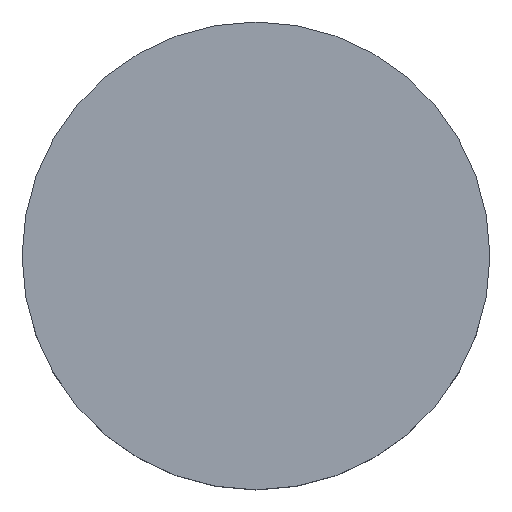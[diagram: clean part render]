
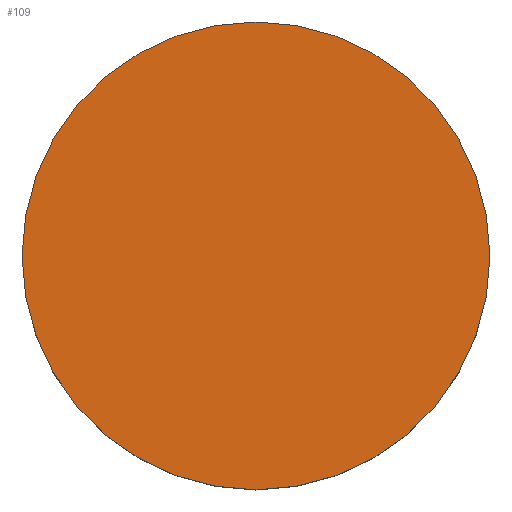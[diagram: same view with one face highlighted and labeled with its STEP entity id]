
A CAD part, top view. The second image highlights one B-rep face of the part: STEP entity #109.
In plain terms, the highlighted planar face has unit normal (0, 0, 1).
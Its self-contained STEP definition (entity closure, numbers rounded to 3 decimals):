
#24 = VERTEX_POINT('',#25);
#25 = CARTESIAN_POINT('',(9.,0.,4.));
#32 = CYLINDRICAL_SURFACE('',#33,9.);
#33 = AXIS2_PLACEMENT_3D('',#34,#35,#36);
#34 = CARTESIAN_POINT('',(0.,0.,0.));
#35 = DIRECTION('',(-0.,-0.,-1.));
#36 = DIRECTION('',(1.,0.,0.));
#51 = EDGE_CURVE('',#24,#24,#52,.T.);
#52 = SURFACE_CURVE('',#53,(#58,#65),.PCURVE_S1.);
#53 = CIRCLE('',#54,9.);
#54 = AXIS2_PLACEMENT_3D('',#55,#56,#57);
#55 = CARTESIAN_POINT('',(0.,0.,4.));
#56 = DIRECTION('',(0.,0.,1.));
#57 = DIRECTION('',(1.,0.,0.));
#58 = PCURVE('',#32,#59);
#59 = DEFINITIONAL_REPRESENTATION('',(#60),#64);
#60 = LINE('',#61,#62);
#61 = CARTESIAN_POINT('',(-0.,-4.));
#62 = VECTOR('',#63,1.);
#63 = DIRECTION('',(-1.,0.));
#64 = ( GEOMETRIC_REPRESENTATION_CONTEXT(2) 
PARAMETRIC_REPRESENTATION_CONTEXT() REPRESENTATION_CONTEXT('2D SPACE',''
  ) );
#65 = PCURVE('',#66,#71);
#66 = PLANE('',#67);
#67 = AXIS2_PLACEMENT_3D('',#68,#69,#70);
#68 = CARTESIAN_POINT('',(0.,0.,4.));
#69 = DIRECTION('',(0.,0.,1.));
#70 = DIRECTION('',(1.,0.,-0.));
#71 = DEFINITIONAL_REPRESENTATION('',(#72),#76);
#72 = CIRCLE('',#73,9.);
#73 = AXIS2_PLACEMENT_2D('',#74,#75);
#74 = CARTESIAN_POINT('',(0.,0.));
#75 = DIRECTION('',(1.,0.));
#76 = ( GEOMETRIC_REPRESENTATION_CONTEXT(2) 
PARAMETRIC_REPRESENTATION_CONTEXT() REPRESENTATION_CONTEXT('2D SPACE',''
  ) );
#109 = ADVANCED_FACE('',(#110),#66,.T.);
#110 = FACE_BOUND('',#111,.T.);
#111 = EDGE_LOOP('',(#112));
#112 = ORIENTED_EDGE('',*,*,#51,.T.);
